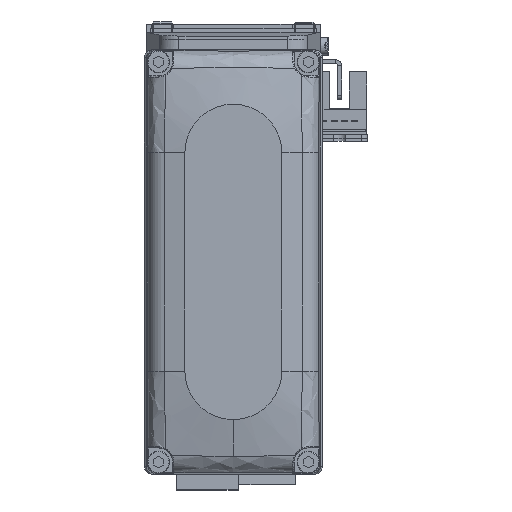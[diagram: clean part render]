
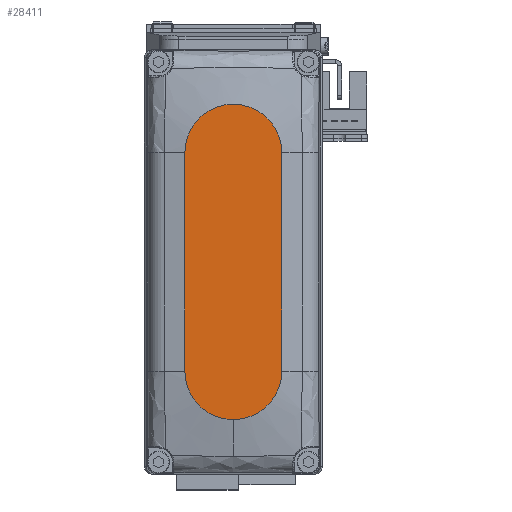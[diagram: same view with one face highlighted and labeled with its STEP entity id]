
A CAD part, top view. The second image highlights one B-rep face of the part: STEP entity #28411.
In plain terms, the highlighted planar face has unit normal (0, 0, 1).
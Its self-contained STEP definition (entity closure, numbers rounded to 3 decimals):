
#548 = LINE ( 'NONE', #12789, #23596 ) ;
#1076 = VECTOR ( 'NONE', #34759, 1000. ) ;
#1670 = DIRECTION ( 'NONE',  ( 0., 0., 1. ) ) ;
#2244 = AXIS2_PLACEMENT_3D ( 'NONE', #23305, #35547, #8028 ) ;
#2907 = PLANE ( 'NONE',  #16589 ) ;
#5939 = CARTESIAN_POINT ( 'NONE',  ( 39., 0., 25. ) ) ;
#8028 = DIRECTION ( 'NONE',  ( 1., 0., 0. ) ) ;
#8453 = DIRECTION ( 'NONE',  ( 1., 0., 0. ) ) ;
#8974 = CIRCLE ( 'NONE', #31436, 12. ) ;
#9129 = ORIENTED_EDGE ( 'NONE', *, *, #16710, .T. ) ;
#10255 = LINE ( 'NONE', #22523, #1076 ) ;
#12598 = CARTESIAN_POINT ( 'NONE',  ( 27., 12., 25. ) ) ;
#12789 = CARTESIAN_POINT ( 'NONE',  ( -27., -12., 25. ) ) ;
#12834 = CARTESIAN_POINT ( 'NONE',  ( 27., -12., 25. ) ) ;
#12838 = EDGE_CURVE ( 'NONE', #22870, #21977, #10255, .T. ) ;
#13906 = DIRECTION ( 'NONE',  ( 1., 0., 0. ) ) ;
#14867 = EDGE_CURVE ( 'NONE', #15124, #19028, #19568, .T. ) ;
#15124 = VERTEX_POINT ( 'NONE', #12834 ) ;
#15154 = CARTESIAN_POINT ( 'NONE',  ( 0., 0., 25. ) ) ;
#16589 = AXIS2_PLACEMENT_3D ( 'NONE', #15154, #27430, #39661 ) ;
#16710 = EDGE_CURVE ( 'NONE', #31227, #15124, #548, .T. ) ;
#19028 = VERTEX_POINT ( 'NONE', #5939 ) ;
#19568 = CIRCLE ( 'NONE', #2244, 12. ) ;
#21977 = VERTEX_POINT ( 'NONE', #32283 ) ;
#22492 = EDGE_LOOP ( 'NONE', ( #33019, #31527, #9129, #25229, #23914 ) ) ;
#22523 = CARTESIAN_POINT ( 'NONE',  ( -27., 12., 25. ) ) ;
#22870 = VERTEX_POINT ( 'NONE', #12598 ) ;
#23305 = CARTESIAN_POINT ( 'NONE',  ( 27., 0., 25. ) ) ;
#23596 = VECTOR ( 'NONE', #25062, 1000. ) ;
#23743 = CARTESIAN_POINT ( 'NONE',  ( 27., 0., 25. ) ) ;
#23914 = ORIENTED_EDGE ( 'NONE', *, *, #25181, .T. ) ;
#25062 = DIRECTION ( 'NONE',  ( 1., 0., 0. ) ) ;
#25181 = EDGE_CURVE ( 'NONE', #19028, #22870, #31879, .T. ) ;
#25229 = ORIENTED_EDGE ( 'NONE', *, *, #14867, .T. ) ;
#27430 = DIRECTION ( 'NONE',  ( 0., 0., 1. ) ) ;
#28411 = ADVANCED_FACE ( 'NONE', ( #30423 ), #2907, .T. ) ;
#29192 = CARTESIAN_POINT ( 'NONE',  ( -27., 0., 25. ) ) ;
#30423 = FACE_OUTER_BOUND ( 'NONE', #22492, .T. ) ;
#31227 = VERTEX_POINT ( 'NONE', #35056 ) ;
#31436 = AXIS2_PLACEMENT_3D ( 'NONE', #29192, #1670, #13906 ) ;
#31527 = ORIENTED_EDGE ( 'NONE', *, *, #37980, .T. ) ;
#31879 = CIRCLE ( 'NONE', #36992, 12. ) ;
#32283 = CARTESIAN_POINT ( 'NONE',  ( -27., 12., 25. ) ) ;
#33019 = ORIENTED_EDGE ( 'NONE', *, *, #12838, .T. ) ;
#34759 = DIRECTION ( 'NONE',  ( -1., 0., 0. ) ) ;
#35056 = CARTESIAN_POINT ( 'NONE',  ( -27., -12., 25. ) ) ;
#35547 = DIRECTION ( 'NONE',  ( 0., 0., 1. ) ) ;
#35975 = DIRECTION ( 'NONE',  ( 0., 0., 1. ) ) ;
#36992 = AXIS2_PLACEMENT_3D ( 'NONE', #23743, #35975, #8453 ) ;
#37980 = EDGE_CURVE ( 'NONE', #21977, #31227, #8974, .T. ) ;
#39661 = DIRECTION ( 'NONE',  ( 1., 0., 0. ) ) ;
